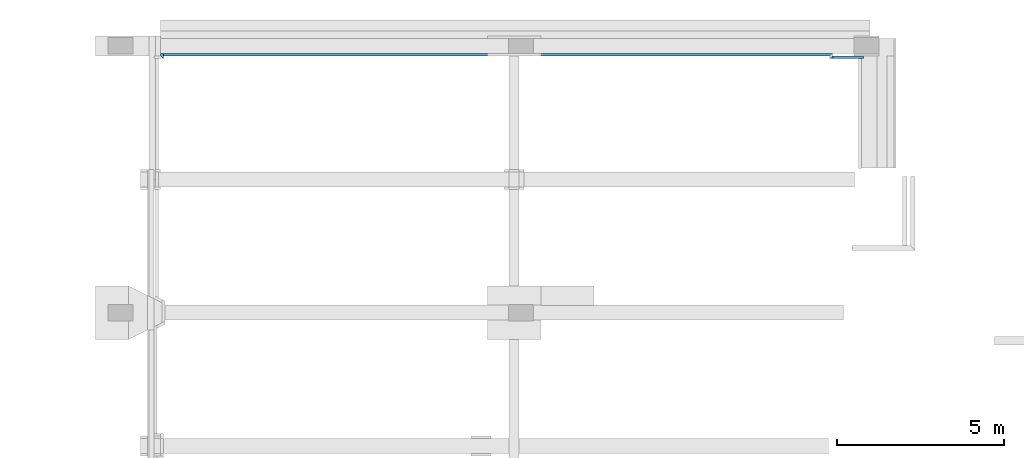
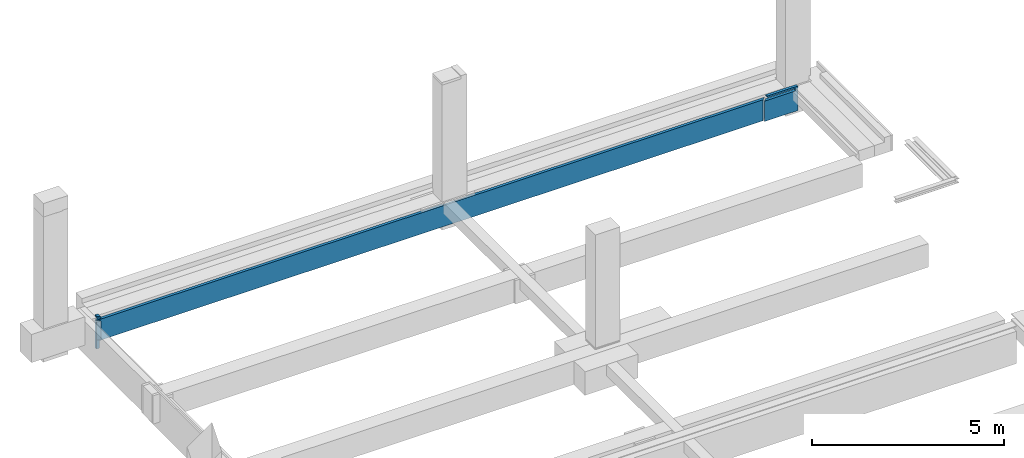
# One storey, part 13 of 17: 3 walls.
"""IFC2X3 building model written with IfcOpenShell, lengths in millimetres."""

from ifc_helpers import new_model, entity, si_unit, converted_unit, derived_unit, money_unit, direction, frame, origin_with_axes, place, context, subcontext, project, spatial, faceted_brep, material, type_object, element, save


model = new_model("IFC2X3")

# Units and contexts
model_context = context("Model", 3, precision=0.01, world=origin_with_axes(), true_north=direction((0.0, 1.0)))
body_context = subcontext(model_context, "Body", "Model", "MODEL_VIEW")
ifc_project = project(units=[si_unit("LENGTHUNIT", "METRE", prefix="MILLI"), si_unit("AREAUNIT", "SQUARE_METRE"), si_unit("VOLUMEUNIT", "CUBIC_METRE"), converted_unit("PLANEANGLEUNIT", "DEGREE", entity("IfcPlaneAngleMeasure", 0.0174532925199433), si_unit("PLANEANGLEUNIT", "RADIAN"), dimensions=[0, 0, 0, 0, 0, 0, 0]), money_unit("EUR"), converted_unit("TIMEUNIT", "Year", entity("IfcTimeMeasure", 31557600.0), si_unit("TIMEUNIT", "SECOND"), dimensions=[0, 0, 1, 0, 0, 0, 0]), si_unit("MASSUNIT", "GRAM", prefix="KILO"), si_unit("THERMODYNAMICTEMPERATUREUNIT", "DEGREE_CELSIUS"), si_unit("LUMINOUSINTENSITYUNIT", "LUMEN"), si_unit("ENERGYUNIT", "JOULE", prefix="MEGA"), derived_unit("THERMALCONDUCTANCEUNIT", [(si_unit("POWERUNIT", "WATT"), 1), (si_unit("LENGTHUNIT", "METRE"), -1), (si_unit("THERMODYNAMICTEMPERATUREUNIT", "KELVIN"), -1)]), derived_unit("SPECIFICHEATCAPACITYUNIT", [(si_unit("ENERGYUNIT", "JOULE"), 1), (si_unit("MASSUNIT", "GRAM", prefix="KILO"), -1), (si_unit("THERMODYNAMICTEMPERATUREUNIT", "KELVIN"), -1)]), derived_unit("MASSDENSITYUNIT", [(si_unit("MASSUNIT", "GRAM", prefix="KILO"), 1), (si_unit("VOLUMEUNIT", "CUBIC_METRE"), -1)])], contexts=[model_context])

# Site, building, storey
site_placement = place(None, origin_with_axes())
site = spatial("IfcSite", under=ifc_project, at=site_placement, Name="<site naam>", CompositionType="ELEMENT")
building_placement = place(site_placement, origin_with_axes())
building = spatial("IfcBuilding", under=site, at=building_placement, Name="<Naam gebouw>", CompositionType="ELEMENT")
storey_placement = place(building_placement, frame((0.0, 0.0, -1100.0), z_axis=(0.0, 0.0, 1.0), x_axis=(1.0, 0.0, 0.0)))
storey = spatial("IfcBuildingStorey", under=building, at=storey_placement, Name="-1 Fundering", CompositionType="ELEMENT", Elevation=-1100.0)

# Walls
ifc_material = material(Name="ALG - ISOLATIE")
wall_type = type_object("IfcWallType", Name="ALG - ISOLATIE 85", PredefinedType="NOTDEFINED")
wall_1_placement = place(storey_placement, frame((-8804.082491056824, 23775.00000000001, 150.0), z_axis=(0.0, 0.0, 1.0), x_axis=(1.0, 0.0, 0.0)))
element("IfcWall", 1, at=wall_1_placement, inside=storey, type_object=wall_type, material=ifc_material, Name="21_Binnenwand_ALG", context=body_context, shape_type="Brep", body=[
    faceted_brep([(20149.99999932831, 0.0, 0.0), (11179.08249105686, 0.0, 0.0), (11179.08249105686, 0.0, 670.0), (20149.99999932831, 0.0, 670.0), (10429.08249105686, -25.00000000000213, 0.0), (11179.08249105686, -25.00000000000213, 0.0), (20064.99999932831, -85.00000000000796, 0.0), (85.00000000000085, -85.00000000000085, 0.0), (0.0, 0.0, 0.0), (10429.08249105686, 0.0, 0.0), (11179.08249105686, -25.00000000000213, 669.9999999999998), (10429.08249105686, -25.00000000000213, 669.9999999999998), (10429.08249105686, 0.0, 670.0), (0.0, 0.0, 670.0), (85.00000000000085, -85.00000000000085, 670.0), (20064.99999932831, -85.00000000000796, 670.0)], [[[0, 1, 2, 3]], [[4, 5, 1, 0, 6, 7, 8, 9]], [[5, 10, 2, 1]], [[10, 11, 12, 13, 14, 15, 3, 2]], [[6, 0, 3, 15]], [[4, 11, 10, 5]], [[7, 6, 15, 14]], [[8, 7, 14, 13]], [[13, 12, 9, 8]], [[4, 9, 12, 11]]]),
])
wall_2_placement = place(storey_placement, frame((-8804.082491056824, 23700.00000000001, -100.0000000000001), z_axis=(0.0, 0.0, 1.0), x_axis=(0.0, 1.0, 0.0)))
element("IfcWall", 2, at=wall_2_placement, inside=storey, type_object=wall_type, material=ifc_material, Name="21_Binnenwand_ALG", context=body_context, shape_type="Brep", body=[
    faceted_brep([(74.99999999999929, 0.0, 250.0000000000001), (74.99999999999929, 0.0, 920.0000000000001), (-9.99999999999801, -85.00000000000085, 920.0000000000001), (-9.99999999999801, -85.00000000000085, 299.9999928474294), (0.0, -74.99999999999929, 299.9999928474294), (0.0, -75.00000000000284, 250.0000000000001), (0.0, 0.0, 299.9999928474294), (0.0, 0.0, 920.0000000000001), (74.99999999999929, 0.0, 0.0), (0.0, 0.0, 0.0), (-85.00000000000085, -85.00000000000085, 920.0000000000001), (-85.00000000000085, -85.00000000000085, 299.9999928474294), (0.0, -85.00000000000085, 0.0), (0.0, -85.00000000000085, 250.0000000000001), (74.99999999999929, -85.00000000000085, 250.0000000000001), (74.99999999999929, -85.00000000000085, 0.0)], [[[0, 1, 2, 3, 4, 5]], [[6, 7, 1, 0, 8, 9]], [[7, 10, 2, 1]], [[3, 2, 10, 11]], [[11, 6, 4, 3]], [[12, 13, 5, 4, 6, 9]], [[0, 5, 13, 14]], [[11, 10, 7, 6]], [[15, 8, 0, 14]], [[12, 9, 8, 15]], [[12, 15, 14, 13]]]),
    faceted_brep([(-85.00000000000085, -85.00000000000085, 1050.0), (-85.00000000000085, -85.00000000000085, 1000.0), (-9.99999999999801, -85.00000000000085, 1000.0), (74.99999999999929, -85.00000000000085, 1000.000007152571), (74.99999999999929, -85.00000000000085, 1050.0), (0.0, 0.0, 1050.0), (0.0, 0.0, 1000.0), (74.99999999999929, 0.0, 1000.0), (74.99999999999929, 0.0, 1050.0)], [[[0, 1, 2, 3, 4]], [[5, 6, 1, 0]], [[6, 7, 2, 1]], [[3, 2, 7]], [[8, 4, 3, 7]], [[4, 8, 5, 0]], [[8, 7, 6, 5]]]),
])
wall_3_placement = place(storey_placement, frame((11345.91750827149, 23700.00000000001, 170.0), z_axis=(0.0, 0.0, 1.0), x_axis=(1.0, 0.0, 0.0)))
element("IfcWall", 3, at=wall_3_placement, inside=storey, type_object=wall_type, material=ifc_material, Name="21_Binnenwand_ALG", context=body_context, shape_type="Brep", body=[
    faceted_brep([(0.0, 0.0, 650.0), (854.4985555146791, 0.0, 650.0), (854.4985555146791, 0.0, 730.0), (0.0, 0.0, 730.0), (0.0, 0.0, 779.9999999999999), (919.0824917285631, 0.0, 779.9999999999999), (919.0824917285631, 0.0, 0.0), (0.0, 0.0, 0.0), (854.4985555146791, -85.00000000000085, 650.0), (-85.00000000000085, -85.00000000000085, 650.0), (854.4985555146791, -85.00000000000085, 730.0), (0.0, -85.00000000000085, 730.0), (0.0, -85.00000000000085, 779.9999999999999), (919.0824917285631, -85.00000000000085, 779.9999999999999), (919.0824917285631, -85.00000000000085, 0.0), (-85.00000000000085, -85.00000000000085, 0.0)], [[[0, 1, 2, 3, 4, 5, 6, 7]], [[8, 1, 0, 9]], [[10, 2, 1, 8]], [[3, 2, 10, 11]], [[4, 3, 11, 12]], [[13, 5, 4, 12]], [[14, 6, 5, 13]], [[6, 14, 15, 7]], [[15, 9, 0, 7]], [[10, 8, 9, 15, 14, 13, 12, 11]]]),
])

save(model, "model.ifc")
